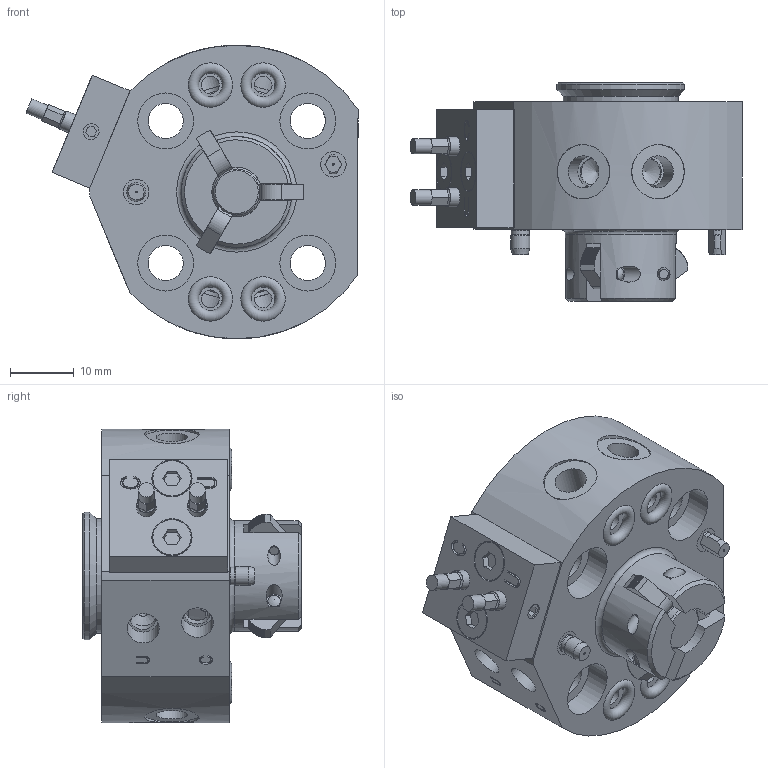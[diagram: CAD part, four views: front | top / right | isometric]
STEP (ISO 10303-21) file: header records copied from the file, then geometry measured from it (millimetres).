
FILE_DESCRIPTION (( 'STEP AP214' ), '1' );
FILE_NAME ('1606-D02A REV00.STEP', '2019-06-28T18:22:04', ( '' ), ( '' ), 'SwSTEP 2.0', 'SolidWorks 2019', '' );
FILE_SCHEMA (( 'AUTOMOTIVE_DESIGN' ));
Length unit declared in the file: millimetre
Products named in the file (19): 1507-C66N; 97501-P1084; 89501-P1096; 1507-D64N; 1606-D02A REV00; 49989_Default<As Machined>; 1507-P77N; 1507-C70N; 1507-P01N; 48169; 1004-P68N; 1502-P94N; 1507-C65N; 48414; 1004-P67N; 96504-P1019; 91500-P1032_Unstretched; 1507-D69A; 0104-C18N
Assembly tree (30 placements, depth 3):
  1606-D02A REV00
    1507-D64N
    1507-C65N
    1507-C66N
    1502-P94N
    1507-P77N
    96504-P1019  x4
    0104-C18N  x3
    1004-P67N
    1004-P68N
    91500-P1032_Unstretched  x2
    49989_Default<As Machined>  x3
    89501-P1096
    1507-D69A
      1507-C70N
      1507-P01N  x2
      48414  x2
      97501-P1084  x2
      48169  x2
Bounding box: 52.02 x 34.28 x 46 mm (x, y, z)
Volume: 30200.8 mm3; surface area: 20532 mm2
Topology: 29 solids, 29 shells, 632 faces, 1522 edges, 981 vertices
Faces by surface type: plane 350, cylinder 155, cone 57, torus 38, bspline 32
Full cylindrical faces by diameter (mm): 1 x2, 1.5 x2, 2 x3, 2.002 x6, 2.014 x3, 2.4 x2, 2.5 x8, 2.572 x2, 2.6 x1, 2.8 x5, 3 x11, 3.05 x2, 3.075 x2, 3.3 x2, 3.4 x2, 4 x4, 4.2 x2, 5 x7, 5.5 x4, 6 x2, 6.35 x2, 6.96 x4, 7.23 x1, 7.26 x4, 7.72 x1, 7.81 x2, 8.5 x4, 8.75 x4, 11.03 x1, 12 x1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
Entity records: 17390 total; most frequent: CARTESIAN_POINT 7143, DIRECTION 1889, ORIENTED_EDGE 1666, EDGE_CURVE 833, AXIS2_PLACEMENT_3D 755, EDGE_LOOP 722, VERTEX_POINT 625, FACE_OUTER_BOUND 571
